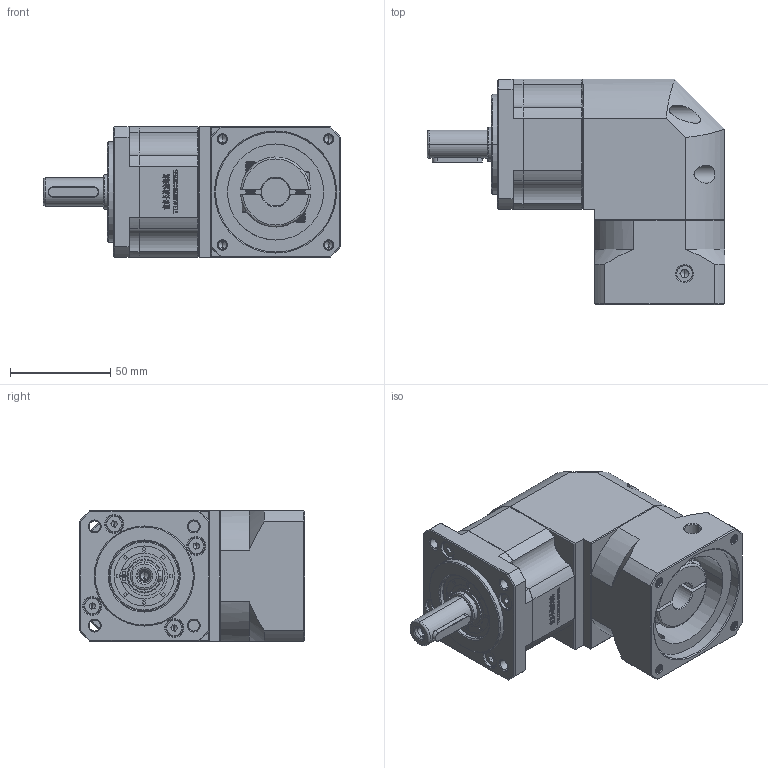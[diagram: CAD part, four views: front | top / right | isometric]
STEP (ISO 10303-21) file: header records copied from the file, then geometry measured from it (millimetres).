
FILE_DESCRIPTION (( 'STEP AP214' ), '1' );
FILE_NAME ('ZBR60-D14-L1-14-60-75-M5.STEP', '2022-04-19T09:00:11', ( '' ), ( 'Microsoft' ), 'SwSTEP 2.0', 'SolidWorks 2016', '' );
FILE_SCHEMA (( 'AUTOMOTIVE_DESIGN' ));
Length unit declared in the file: millimetre
Products named in the file (1): ZBR60-D14-L1-14-60-75-M5
Bounding box: 148.5 x 112.7 x 65 mm (x, y, z)
Volume: 540460.7 mm3; surface area: 79033.8 mm2
Topology: 5 solids, 5 shells, 2843 faces, 7713 edges, 5006 vertices
Faces by surface type: plane 1472, bspline 579, cylinder 432, cone 326, torus 34
Entity records: 155129 total; most frequent: CARTESIAN_POINT 56505, ORIENTED_EDGE 15366, DIRECTION 11725, EDGE_CURVE 7683, LINE 5057, VECTOR 5057, VERTEX_POINT 5006, AXIS2_PLACEMENT_3D 3334
